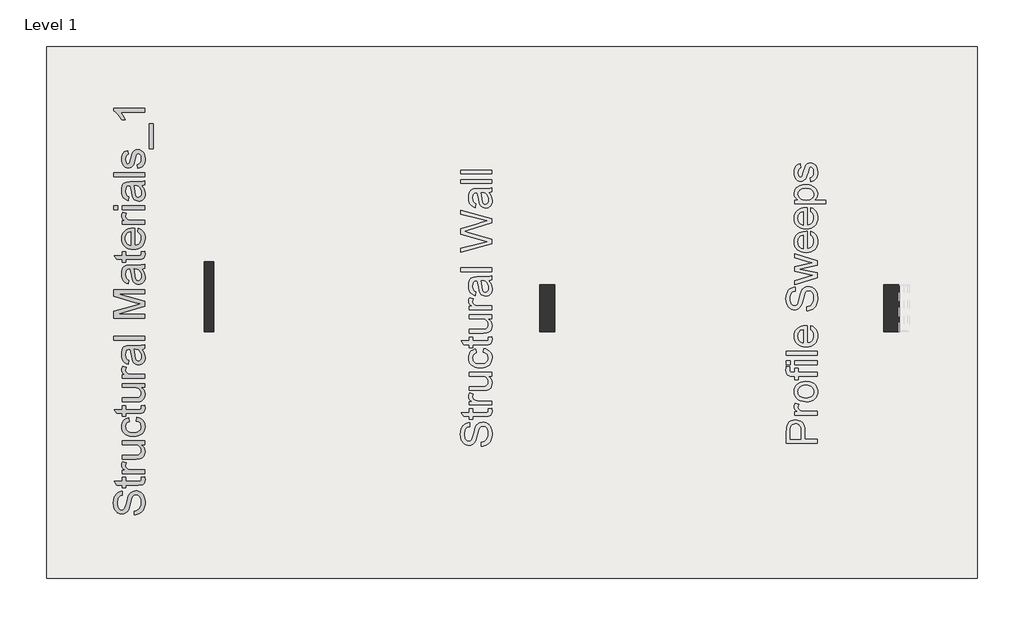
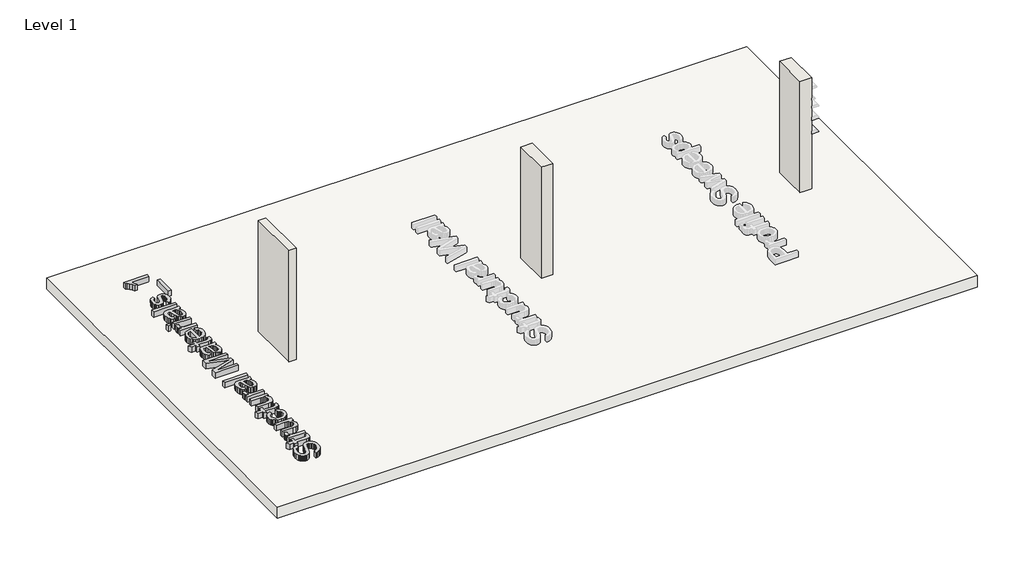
# One storey, part 1 of 2: 3 walls, 1 proxy, 1 slab.
"""IFC4 building model written with IfcOpenShell, lengths in millimetres."""

from ifc_helpers import new_model, si_unit, frame, origin, origin_with_axes, place, context, project, spatial, polyline, outline, extrude, element, save

model = new_model("IFC4")

# Units and contexts
model_context = context("Model", 3, world=origin())
ifc_project = project(units=[si_unit("LENGTHUNIT", "METRE", prefix="MILLI")], contexts=[model_context])

# Site, building, storey
site = spatial("IfcSite", under=ifc_project)
building = spatial("IfcBuilding", under=site)
storey = spatial("IfcBuildingStorey", under=building, Name="Level 1", Elevation=0.0)

# Proxy
placement = place(None, origin())
element("IfcBuildingElementProxy", 1, Name="24\" Arial", ObjectType="24\" Arial", at=placement, inside=storey, context=model_context, shape_type="SweptSolid", body=[
    extrude(outline(polyline([(-24556.9558025, 8091.2376871), (-24556.9558025, 8166.2653794), (-24515.3205621, 8174.874514), (-24481.854841, 8190.4442256), (-24455.2947448, 8214.7329756), (-24434.3763794, 8249.4992256), (-24420.8032544, 8291.9953794), (-24416.2788794, 8339.473841), (-24419.704216, 8381.2739371), (-24429.9802256, 8417.8719179), (-24446.2459948, 8447.527639), (-24467.6406102, 8468.5009564), (-24492.2041198, 8480.9750429), (-24517.9765718, 8485.1330717), (-24543.0896006, 8482.0191294), (-24564.7956102, 8472.6773025), (-24583.3144083, 8453.7005717), (-24598.8658025, 8421.6819179), (-24627.5140718, 8312.4374948), (-24646.4724852, 8240.7252352), (-24664.5150333, 8194.8403794), (-24689.7562833, 8157.491389), (-24720.3461871, 8131.0228794), (-24755.6253218, 8115.2516775), (-24794.9342641, 8109.9946102), (-24817.2768001, 8111.6202713), (-24838.8774852, 8116.4972544), (-24859.7363194, 8124.6255597), (-24879.8533025, 8136.0051871), (-24898.4087352, 8150.5079155), (-24914.5829179, 8168.0055237), (-24928.3758506, 8188.4980116), (-24939.7875333, 8211.9853794), (-24955.1191198, 8264.7758602), (-24960.2296487, 8323.2080717), (-24954.8809948, 8386.5126871), (-24938.8350333, 8441.9042256), (-24926.88299, 8466.1380237), (-24912.4214756, 8487.4044179), (-24895.45049, 8505.7034083), (-24875.9700333, 8521.0349948), (-24854.5479419, 8533.280115), (-24831.7520525, 8542.3197064), (-24807.582365, 8548.1537689), (-24782.0388794, 8550.7823025), (-24782.0388794, 8475.7546102), (-24805.9796006, 8470.7356679), (-24826.8063794, 8461.9799948), (-24844.519216, 8449.487591), (-24859.1181102, 8433.2584564), (-24870.5297929, 8412.9903554), (-24878.6809948, 8388.3810525), (-24883.571716, 8359.4305477), (-24885.2019564, 8326.138841), (-24883.5900333, 8291.7847304), (-24878.7542641, 8262.4312448), (-24870.6946487, 8238.0783842), (-24859.4111871, 8218.7261487), (-24845.8472208, 8203.980716), (-24830.946091, 8193.448264), (-24814.7077977, 8187.1287929), (-24797.132341, 8185.0223025), (-24782.0114035, 8186.5151631), (-24768.3008987, 8190.9937448), (-24756.0008266, 8198.4580477), (-24745.1111871, 8208.9080717), (-24734.7985429, 8225.357014), (-24724.3759948, 8251.2576871), (-24703.2011871, 8331.4142256), (-24683.0887833, 8414.1351871), (-24665.5408025, 8464.1780717), (-24638.3212833, 8506.9489852), (-24622.321115, 8523.4849347), (-24604.727341, 8536.7878794), (-24585.6315477, 8547.0135165), (-24565.1253218, 8554.3175429), (-24519.8815718, 8560.160764), (-24496.4125213, 8558.4801511), (-24473.6303698, 8553.4383121), (-24451.5351174, 8545.0352472), (-24430.1267641, 8533.2709564), (-24410.2341679, 8518.3515092), (-24392.6861871, 8500.4829756), (-24377.4828218, 8479.6653554), (-24364.6240718, 8455.8986487), (-24354.3984347, 8429.8743338), (-24347.0944083, 8402.283889), (-24341.2511871, 8342.4046102), (-24342.8264756, 8304.0252713), (-24347.552341, 8268.8972544), (-24355.4287833, 8237.0205597), (-24366.4558025, 8208.3951871), (-24380.651716, 8182.8471222), (-24398.034841, 8160.2023506), (-24418.6051775, 8140.4608722), (-24442.3627256, 8123.6226871), (-24468.5381583, 8110.0587208), (-24496.3621487, 8100.1398987), (-24525.8346968, 8093.8662208), (-24556.9558025, 8091.2376871)])), origin_with_axes(), (0.0, 0.0, 1.0), 152.4),
    extrude(outline(polyline([(-24413.2015718, 8822.7576871), (-24348.4315718, 8832.1361487), (-24341.2511871, 8776.0119179), (-24344.3651294, 8740.000091), (-24353.7069564, 8713.1469179), (-24368.1043602, 8694.1701871), (-24386.3850333, 8681.7876871), (-24417.7808987, 8674.9736487), (-24471.5238794, 8672.7023025), (-24716.3896487, 8672.7023025), (-24716.3896487, 8616.4315333), (-24791.417341, 8616.4315333), (-24791.417341, 8672.7023025), (-24898.5369564, 8672.7023025), (-24942.6450333, 8747.7299948), (-24791.417341, 8747.7299948), (-24791.417341, 8822.7576871), (-24716.3896487, 8822.7576871), (-24716.3896487, 8747.7299948), (-24473.7219564, 8747.7299948), (-24435.0358025, 8751.6865333), (-24421.3344564, 8764.5086487), (-24417.5427737, 8775.3341775), (-24416.2788794, 8790.0796102), (-24413.2015718, 8822.7576871)])), origin_with_axes(), (0.0, 0.0, 1.0), 152.4),
    extrude(outline(polyline([(-24350.6296487, 8897.7853794), (-24791.417341, 8897.7853794), (-24791.417341, 8963.4346102), (-24726.2077256, 8963.4346102), (-24764.0146487, 8987.6867256), (-24786.2884948, 9010.033841), (-24797.1689756, 9032.4542256), (-24800.7958025, 9056.9261487), (-24795.0075333, 9094.2934564), (-24777.6427256, 9132.2469179), (-24710.3815718, 9107.188841), (-24721.9214756, 9080.8119179), (-24725.7681102, 9054.4349948), (-24722.0680141, 9032.0329275), (-24710.9677256, 9012.0121102), (-24693.309841, 8995.8379275), (-24669.9369564, 8984.975764), (-24628.0269564, 8975.8537448), (-24582.3069564, 8972.8130717), (-24350.6296487, 8972.8130717), (-24350.6296487, 8897.7853794)])), origin_with_axes(), (0.0, 0.0, 1.0), 152.4),
    extrude(outline(polyline([(-24350.6296487, 9460.4930717), (-24426.3900333, 9460.4930717), (-24389.1417881, 9433.3468217), (-24362.5358987, 9401.7311487), (-24346.572365, 9365.6460525), (-24341.2511871, 9325.0915333), (-24344.9879179, 9288.5485044), (-24356.1981102, 9254.533264), (-24373.0500333, 9225.9948987), (-24393.7119564, 9205.8824948), (-24418.8066679, 9192.3460044), (-24448.9569564, 9183.5353794), (-24518.7092641, 9179.1392256), (-24791.417341, 9179.1392256), (-24791.417341, 9254.1669179), (-24554.0250333, 9254.1669179), (-24506.5465718, 9255.302591), (-24477.5319564, 9258.7096102), (-24452.0159468, 9269.6450429), (-24432.6179179, 9288.3836487), (-24420.3636391, 9313.6798506), (-24416.2788794, 9344.2880717), (-24420.4552256, 9376.6547544), (-24432.9842641, 9406.933264), (-24452.7120044, 9431.8997544), (-24478.4844564, 9448.3303794), (-24513.7819083, 9457.4523987), (-24562.0846487, 9460.4930717), (-24791.417341, 9460.4930717), (-24791.417341, 9535.520764), (-24350.6296487, 9535.520764), (-24350.6296487, 9460.4930717)])), origin_with_axes(), (0.0, 0.0, 1.0), 152.4),
    extrude(outline(polyline([(-24510.0634948, 9920.0376871), (-24500.6850333, 9995.0653794), (-24465.2822569, 9986.9050189), (-24433.9550814, 9974.147014), (-24406.7035069, 9956.791365), (-24383.5275333, 9934.8380717), (-24365.0316319, 9909.2121583), (-24351.8202737, 9880.8386487), (-24343.8934588, 9849.7175429), (-24341.2511871, 9815.848841), (-24344.9375453, 9773.7694059), (-24355.9966198, 9736.0403314), (-24374.4284107, 9702.6616174), (-24400.2329179, 9673.633264), (-24432.9247328, 9650.1367376), (-24472.0184468, 9633.3535044), (-24517.5140597, 9623.2835645), (-24569.4115718, 9619.9269179), (-24636.1781583, 9625.6602352), (-24666.2231222, 9632.8268818), (-24694.0425333, 9642.8601871), (-24719.0777136, 9655.828841), (-24740.7699852, 9671.8015333), (-24759.1193482, 9690.778264), (-24774.1258025, 9712.7590333), (-24785.7939275, 9736.750127), (-24794.1283025, 9761.7578314), (-24799.1289275, 9787.7821463), (-24800.7958025, 9814.8230717), (-24798.5061391, 9848.1101991), (-24791.6371487, 9878.2192737), (-24780.1888314, 9905.1502953), (-24764.1611871, 9928.903264), (-24743.9205621, 9949.0751991), (-24719.8333025, 9965.2631198), (-24691.8994083, 9977.4670261), (-24660.1188794, 9985.6869179), (-24650.7404179, 9910.6592256), (-24683.4734468, 9897.049466), (-24706.9379179, 9875.856341), (-24721.0605621, 9848.2521583), (-24725.7681102, 9815.4092256), (-24723.4509708, 9789.9161126), (-24716.4995525, 9766.9233121), (-24704.9138554, 9746.4308241), (-24688.6938794, 9728.4386487), (-24667.4641198, 9713.7893818), (-24640.8490718, 9703.3256198), (-24608.8487352, 9697.0473626), (-24571.4631102, 9694.9546102), (-24533.514228, 9697.0015693), (-24501.142966, 9703.1424467), (-24474.3493242, 9713.3772424), (-24453.1333025, 9727.7059564), (-24437.0094924, 9745.3409443), (-24425.4924852, 9765.4945621), (-24418.5822809, 9788.1668097), (-24416.2788794, 9813.3576871), (-24422.0305141, 9852.2086967), (-24429.2200573, 9869.0102472), (-24439.2854179, 9884.0624948), (-24452.3364996, 9896.9441415), (-24468.4832064, 9907.233889), (-24487.7255381, 9914.9317376), (-24510.0634948, 9920.0376871)])), origin_with_axes(), (0.0, 0.0, 1.0), 152.4),
    extrude(outline(polyline([(-24413.2015718, 10220.1484564), (-24348.4315718, 10229.5269179), (-24341.2511871, 10173.4026871), (-24344.3651294, 10137.3908602), (-24353.7069564, 10110.5376871), (-24368.1043602, 10091.5609564), (-24386.3850333, 10079.1784564), (-24417.7808987, 10072.3644179), (-24471.5238794, 10070.0930717), (-24716.3896487, 10070.0930717), (-24716.3896487, 10013.8223025), (-24791.417341, 10013.8223025), (-24791.417341, 10070.0930717), (-24898.5369564, 10070.0930717), (-24942.6450333, 10145.120764), (-24791.417341, 10145.120764), (-24791.417341, 10220.1484564), (-24716.3896487, 10220.1484564), (-24716.3896487, 10145.120764), (-24473.7219564, 10145.120764), (-24435.0358025, 10149.0773025), (-24421.3344564, 10161.8994179), (-24417.5427737, 10172.7249467), (-24416.2788794, 10187.4703794), (-24413.2015718, 10220.1484564)])), origin_with_axes(), (0.0, 0.0, 1.0), 152.4),
    extrude(outline(polyline([(-24350.6296487, 10576.5299948), (-24426.3900333, 10576.5299948), (-24389.1417881, 10549.3837448), (-24362.5358987, 10517.7680717), (-24346.572365, 10481.6829756), (-24341.2511871, 10441.1284564), (-24344.9879179, 10404.5854275), (-24356.1981102, 10370.5701871), (-24373.0500333, 10342.0318217), (-24393.7119564, 10321.9194179), (-24418.8066679, 10308.3829275), (-24448.9569564, 10299.5723025), (-24518.7092641, 10295.1761487), (-24791.417341, 10295.1761487), (-24791.417341, 10370.203841), (-24554.0250333, 10370.203841), (-24506.5465718, 10371.339514), (-24477.5319564, 10374.7465333), (-24452.0159468, 10385.681966), (-24432.6179179, 10404.4205717), (-24420.3636391, 10429.7167737), (-24416.2788794, 10460.3249948), (-24420.4552256, 10492.6916775), (-24432.9842641, 10522.9701871), (-24452.7120044, 10547.9366775), (-24478.4844564, 10564.3673025), (-24513.7819083, 10573.4893217), (-24562.0846487, 10576.5299948), (-24791.417341, 10576.5299948), (-24791.417341, 10651.5576871), (-24350.6296487, 10651.5576871), (-24350.6296487, 10576.5299948)])), origin_with_axes(), (0.0, 0.0, 1.0), 152.4),
    extrude(outline(polyline([(-24350.6296487, 10754.720764), (-24791.417341, 10754.720764), (-24791.417341, 10820.3699948), (-24726.2077256, 10820.3699948), (-24764.0146487, 10844.6221102), (-24786.2884948, 10866.9692256), (-24797.1689756, 10889.3896102), (-24800.7958025, 10913.8615333), (-24795.0075333, 10951.228841), (-24777.6427256, 10989.1823025), (-24710.3815718, 10964.1242256), (-24721.9214756, 10937.7473025), (-24725.7681102, 10911.3703794), (-24722.0680141, 10888.9683121), (-24710.9677256, 10868.9474948), (-24693.309841, 10852.7733121), (-24669.9369564, 10841.9111487), (-24628.0269564, 10832.7891294), (-24582.3069564, 10829.7484564), (-24350.6296487, 10829.7484564), (-24350.6296487, 10754.720764)])), origin_with_axes(), (0.0, 0.0, 1.0), 152.4),
    extrude(outline(polyline([(-24406.9004179, 11317.4284564), (-24376.1639756, 11281.5814852), (-24356.0515718, 11244.6721102), (-24344.9512833, 11205.8577352), (-24341.2511871, 11164.295764), (-24343.47674, 11130.8895741), (-24350.1533987, 11101.5956198), (-24361.2811631, 11076.4139011), (-24376.8600333, 11055.3444179), (-24395.9008746, 11038.7077232), (-24417.4145525, 11026.8243698), (-24441.4010669, 11019.6943578), (-24467.8604179, 11017.3176871), (-24498.9632064, 11020.9078794), (-24527.2084948, 11031.6784564), (-24551.387341, 11048.2922544), (-24570.2908025, 11069.4121102), (-24584.5783025, 11094.2320621), (-24594.9092641, 11121.9461487), (-24606.1927256, 11186.8626871), (-24618.062341, 11263.5755717), (-24631.9834948, 11316.988841), (-24648.6888794, 11317.4284564), (-24682.1729179, 11312.2629756), (-24694.5737352, 11305.8061246), (-24704.0804179, 11296.7665333), (-24713.5687833, 11281.1418698), (-24720.3461871, 11262.1101871), (-24725.7681102, 11213.825764), (-24722.1596006, 11169.1315333), (-24711.3340718, 11137.918841), (-24691.3132544, 11116.6341294), (-24660.1188794, 11101.723841), (-24669.497341, 11026.6961487), (-24710.5281102, 11039.7197544), (-24742.7665718, 11059.1544179), (-24767.4216679, 11086.8135525), (-24785.702341, 11124.5105717), (-24797.0224371, 11170.6152352), (-24800.7958025, 11223.4973025), (-24797.4620525, 11274.2179275), (-24787.4608025, 11314.4244179), (-24772.4222929, 11344.7395621), (-24753.9767641, 11365.7861487), (-24731.171716, 11379.7439371), (-24703.0546487, 11388.7926871), (-24637.4054179, 11392.4561487), (-24544.0604179, 11392.4561487), (-24413.7144564, 11396.2661487), (-24381.4943121, 11401.9078794), (-24350.6296487, 11411.2130717), (-24350.6296487, 11336.1853794), (-24376.7134948, 11324.1692256), (-24406.9004179, 11317.4284564)]), holes=[polyline([(-24556.9558025, 11317.4284564), (-24544.4633987, 11267.0192256), (-24533.9492641, 11196.3876871), (-24521.7865718, 11131.8374948), (-24513.4705141, 11115.0405237), (-24502.0038794, 11102.6030717), (-24488.2658987, 11094.9098025), (-24473.1358025, 11092.3453794), (-24450.8253218, 11097.9321583), (-24432.5446487, 11114.6924948), (-24420.3453218, 11142.2600429), (-24416.2788794, 11180.2684564), (-24420.7666198, 11220.5665333), (-24434.229841, 11256.1753794), (-24454.0674852, 11285.0434564), (-24477.6784948, 11305.1192256), (-24502.0038794, 11314.0214371), (-24535.7077256, 11316.988841), (-24556.9558025, 11317.4284564)])]), origin_with_axes(), (0.0, 0.0, 1.0), 152.4),
    extrude(outline(polyline([(-24350.6296487, 11495.6192256), (-24950.8511871, 11495.6192256), (-24950.8511871, 11570.6469179), (-24350.6296487, 11570.6469179), (-24350.6296487, 11495.6192256)])), origin_with_axes(), (0.0, 0.0, 1.0), 152.4),
    extrude(outline(polyline([(-24350.6296487, 11927.0284564), (-24950.8511871, 11927.0284564), (-24950.8511871, 12056.128841), (-24527.7946487, 12178.9280717), (-24439.4319564, 12203.6930717), (-24535.1215718, 12230.5096102), (-24950.8511871, 12351.2573025), (-24950.8511871, 12480.3576871), (-24350.6296487, 12480.3576871), (-24350.6296487, 12405.3299948), (-24875.8234948, 12405.3299948), (-24350.6296487, 12254.5419179), (-24350.6296487, 12152.8442256), (-24875.8234948, 12002.0561487), (-24350.6296487, 12002.0561487), (-24350.6296487, 11927.0284564)])), origin_with_axes(), (0.0, 0.0, 1.0), 152.4),
    extrude(outline(polyline([(-24406.9004179, 12883.6315333), (-24376.1639756, 12847.7845621), (-24356.0515718, 12810.8751871), (-24344.9512833, 12772.0608121), (-24341.2511871, 12730.498841), (-24343.47674, 12697.0926511), (-24350.1533987, 12667.7986967), (-24361.2811631, 12642.616978), (-24376.8600333, 12621.5474948), (-24395.9008746, 12604.9108001), (-24417.4145525, 12593.0274467), (-24441.4010669, 12585.8974347), (-24467.8604179, 12583.520764), (-24498.9632064, 12587.1109564), (-24527.2084948, 12597.8815333), (-24551.387341, 12614.4953314), (-24570.2908025, 12635.6151871), (-24584.5783025, 12660.435139), (-24594.9092641, 12688.1492256), (-24606.1927256, 12753.065764), (-24618.062341, 12829.7786487), (-24631.9834948, 12883.1919179), (-24648.6888794, 12883.6315333), (-24682.1729179, 12878.4660525), (-24694.5737352, 12872.0092015), (-24704.0804179, 12862.9696102), (-24713.5687833, 12847.3449467), (-24720.3461871, 12828.313264), (-24725.7681102, 12780.028841), (-24722.1596006, 12735.3346102), (-24711.3340718, 12704.1219179), (-24691.3132544, 12682.8372064), (-24660.1188794, 12667.9269179), (-24669.497341, 12592.8992256), (-24710.5281102, 12605.9228314), (-24742.7665718, 12625.3574948), (-24767.4216679, 12653.0166294), (-24785.702341, 12690.7136487), (-24797.0224371, 12736.8183121), (-24800.7958025, 12789.7003794), (-24797.4620525, 12840.4210044), (-24787.4608025, 12880.6274948), (-24772.4222929, 12910.942639), (-24753.9767641, 12931.9892256), (-24731.171716, 12945.947014), (-24703.0546487, 12954.995764), (-24637.4054179, 12958.6592256), (-24544.0604179, 12958.6592256), (-24413.7144564, 12962.4692256), (-24381.4943121, 12968.1109564), (-24350.6296487, 12977.4161487), (-24350.6296487, 12902.3884564), (-24376.7134948, 12890.3723025), (-24406.9004179, 12883.6315333)]), holes=[polyline([(-24556.9558025, 12883.6315333), (-24544.4633987, 12833.2223025), (-24533.9492641, 12762.590764), (-24521.7865718, 12698.0405717), (-24513.4705141, 12681.2436006), (-24502.0038794, 12668.8061487), (-24488.2658987, 12661.1128794), (-24473.1358025, 12658.5484564), (-24450.8253218, 12664.1352352), (-24432.5446487, 12680.8955717), (-24420.3453218, 12708.4631198), (-24416.2788794, 12746.4715333), (-24420.7666198, 12786.7696102), (-24434.229841, 12822.3784564), (-24454.0674852, 12851.2465333), (-24477.6784948, 12871.3223025), (-24502.0038794, 12880.224514), (-24535.7077256, 12883.1919179), (-24556.9558025, 12883.6315333)])]), origin_with_axes(), (0.0, 0.0, 1.0), 152.4),
    extrude(outline(polyline([(-24413.2015718, 13221.2561487), (-24348.4315718, 13230.6346102), (-24341.2511871, 13174.5103794), (-24344.3651294, 13138.4985525), (-24353.7069564, 13111.6453794), (-24368.1043602, 13092.6686487), (-24386.3850333, 13080.2861487), (-24417.7808987, 13073.4721102), (-24471.5238794, 13071.200764), (-24716.3896487, 13071.200764), (-24716.3896487, 13014.9299948), (-24791.417341, 13014.9299948), (-24791.417341, 13071.200764), (-24898.5369564, 13071.200764), (-24942.6450333, 13146.2284564), (-24791.417341, 13146.2284564), (-24791.417341, 13221.2561487), (-24716.3896487, 13221.2561487), (-24716.3896487, 13146.2284564), (-24473.7219564, 13146.2284564), (-24435.0358025, 13150.1849948), (-24421.3344564, 13163.0071102), (-24417.5427737, 13173.832639), (-24416.2788794, 13188.5780717), (-24413.2015718, 13221.2561487)])), origin_with_axes(), (0.0, 0.0, 1.0), 152.4),
    extrude(outline(polyline([(-24481.9281102, 13604.893841), (-24472.5496487, 13678.4561487), (-24443.0862593, 13667.1772665), (-24417.1214756, 13651.9510044), (-24394.6552977, 13632.7773626), (-24375.6877256, 13609.656341), (-24360.62174, 13582.8260645), (-24349.8603218, 13552.5246583), (-24343.4034708, 13518.7521222), (-24341.2511871, 13481.5084564), (-24344.9650213, 13434.9550189), (-24356.1065237, 13393.4754756), (-24374.6756944, 13357.0698265), (-24400.6725333, 13325.7380717), (-24433.3735069, 13300.542615), (-24472.0550814, 13282.5458602), (-24516.7172569, 13271.7478073), (-24567.3600333, 13268.1484564), (-24619.7200573, 13271.7844419), (-24665.8705141, 13282.6923987), (-24705.8114035, 13300.8723265), (-24739.5427256, 13326.3242256), (-24766.3409468, 13357.5735525), (-24785.4825333, 13393.145764), (-24796.9674852, 13433.0408602), (-24800.7958025, 13477.258841), (-24796.9766439, 13520.0526511), (-24785.5191679, 13558.7525429), (-24766.4233746, 13593.3585165), (-24739.6892641, 13623.8705717), (-24706.0312112, 13648.7775309), (-24666.163591, 13666.568216), (-24620.0864035, 13677.242627), (-24567.7996487, 13680.800764), (-24547.577341, 13680.3611487), (-24547.577341, 13343.1761487), (-24517.6377016, 13347.5219299), (-24491.4164756, 13356.1631198), (-24468.9136631, 13369.0997184), (-24450.1292641, 13386.3317256), (-24435.3197208, 13406.9066415), (-24424.7414756, 13429.871966), (-24418.3945285, 13455.2276991), (-24416.2788794, 13482.973841), (-24420.1987833, 13522.9055717), (-24431.9584948, 13556.5361487), (-24452.2907064, 13583.8655717), (-24481.9281102, 13604.893841)]), holes=[polyline([(-24622.6050333, 13343.1761487), (-24622.6050333, 13605.7730717), (-24662.2436871, 13595.6252833), (-24677.831716, 13586.8970862), (-24690.5988794, 13575.7326871), (-24705.9854179, 13555.2722544), (-24716.9758025, 13531.9909564), (-24723.5700333, 13505.8887929), (-24725.7681102, 13476.965764), (-24724.014228, 13450.5842616), (-24718.7525814, 13426.3916775), (-24709.9831703, 13404.3880116), (-24697.7059948, 13384.573264), (-24682.4888915, 13367.945728), (-24664.8996968, 13355.5036967), (-24644.9384107, 13347.2471703), (-24622.6050333, 13343.1761487)])]), origin_with_axes(), (0.0, 0.0, 1.0), 152.4),
    extrude(outline(polyline([(-24350.6296487, 13755.8284564), (-24791.417341, 13755.8284564), (-24791.417341, 13821.4776871), (-24726.2077256, 13821.4776871), (-24764.0146487, 13845.7298025), (-24786.2884948, 13868.0769179), (-24797.1689756, 13890.4973025), (-24800.7958025, 13914.9692256), (-24795.0075333, 13952.3365333), (-24777.6427256, 13990.2899948), (-24710.3815718, 13965.2319179), (-24721.9214756, 13938.8549948), (-24725.7681102, 13912.4780717), (-24722.0680141, 13890.0760044), (-24710.9677256, 13870.0551871), (-24693.309841, 13853.8810044), (-24669.9369564, 13843.018841), (-24628.0269564, 13833.8968217), (-24582.3069564, 13830.8561487), (-24350.6296487, 13830.8561487), (-24350.6296487, 13755.8284564)])), origin_with_axes(), (0.0, 0.0, 1.0), 152.4),
    extrude(outline(polyline([(-24350.6296487, 14037.1823025), (-24791.417341, 14037.1823025), (-24791.417341, 14112.2099948), (-24350.6296487, 14112.2099948), (-24350.6296487, 14037.1823025)])), origin_with_axes(), (0.0, 0.0, 1.0), 152.4),
    extrude(outline(polyline([(-24875.8234948, 14037.1823025), (-24950.8511871, 14037.1823025), (-24950.8511871, 14112.2099948), (-24875.8234948, 14112.2099948), (-24875.8234948, 14037.1823025)])), origin_with_axes(), (0.0, 0.0, 1.0), 152.4),
    extrude(outline(polyline([(-24406.9004179, 14506.1053794), (-24376.1639756, 14470.2584083), (-24356.0515718, 14433.3490333), (-24344.9512833, 14394.5346583), (-24341.2511871, 14352.9726871), (-24343.47674, 14319.5664972), (-24350.1533987, 14290.2725429), (-24361.2811631, 14265.0908241), (-24376.8600333, 14244.021341), (-24395.9008746, 14227.3846463), (-24417.4145525, 14215.5012929), (-24441.4010669, 14208.3712809), (-24467.8604179, 14205.9946102), (-24498.9632064, 14209.5848025), (-24527.2084948, 14220.3553794), (-24551.387341, 14236.9691775), (-24570.2908025, 14258.0890333), (-24584.5783025, 14282.9089852), (-24594.9092641, 14310.6230717), (-24606.1927256, 14375.5396102), (-24618.062341, 14452.2524948), (-24631.9834948, 14505.665764), (-24648.6888794, 14506.1053794), (-24682.1729179, 14500.9398987), (-24694.5737352, 14494.4830477), (-24704.0804179, 14485.4434564), (-24713.5687833, 14469.8187929), (-24720.3461871, 14450.7871102), (-24725.7681102, 14402.5026871), (-24722.1596006, 14357.8084564), (-24711.3340718, 14326.595764), (-24691.3132544, 14305.3110525), (-24660.1188794, 14290.400764), (-24669.497341, 14215.3730717), (-24710.5281102, 14228.3966775), (-24742.7665718, 14247.831341), (-24767.4216679, 14275.4904756), (-24785.702341, 14313.1874948), (-24797.0224371, 14359.2921583), (-24800.7958025, 14412.1742256), (-24797.4620525, 14462.8948506), (-24787.4608025, 14503.101341), (-24772.4222929, 14533.4164852), (-24753.9767641, 14554.4630717), (-24731.171716, 14568.4208602), (-24703.0546487, 14577.4696102), (-24637.4054179, 14581.1330717), (-24544.0604179, 14581.1330717), (-24413.7144564, 14584.9430717), (-24381.4943121, 14590.5848025), (-24350.6296487, 14599.8899948), (-24350.6296487, 14524.8623025), (-24376.7134948, 14512.8461487), (-24406.9004179, 14506.1053794)]), holes=[polyline([(-24556.9558025, 14506.1053794), (-24544.4633987, 14455.6961487), (-24533.9492641, 14385.0646102), (-24521.7865718, 14320.5144179), (-24513.4705141, 14303.7174467), (-24502.0038794, 14291.2799948), (-24488.2658987, 14283.5867256), (-24473.1358025, 14281.0223025), (-24450.8253218, 14286.6090814), (-24432.5446487, 14303.3694179), (-24420.3453218, 14330.936966), (-24416.2788794, 14368.9453794), (-24420.7666198, 14409.2434564), (-24434.229841, 14444.8523025), (-24454.0674852, 14473.7203794), (-24477.6784948, 14493.7961487), (-24502.0038794, 14502.6983602), (-24535.7077256, 14505.665764), (-24556.9558025, 14506.1053794)])]), origin_with_axes(), (0.0, 0.0, 1.0), 152.4),
    extrude(outline(polyline([(-24350.6296487, 14684.2961487), (-24950.8511871, 14684.2961487), (-24950.8511871, 14759.323841), (-24350.6296487, 14759.323841), (-24350.6296487, 14684.2961487)])), origin_with_axes(), (0.0, 0.0, 1.0), 152.4),
    extrude(outline(polyline([(-24481.9281102, 14843.7299948), (-24491.3065718, 14918.7576871), (-24474.1982064, 14923.2912208), (-24459.2146487, 14930.5906679), (-24446.3558987, 14940.6560285), (-24435.6219564, 14953.4873025), (-24427.1593602, 14969.1211246), (-24421.1146487, 14987.5941294), (-24416.2788794, 15033.0576871), (-24420.7116679, 15077.9717256), (-24426.2526535, 15095.4281198), (-24434.0100333, 15109.550764), (-24453.279841, 15128.2344179), (-24464.0687352, 15132.9053314), (-24475.6269564, 15134.4623025), (-24485.7564275, 15132.8961727), (-24494.7502256, 15128.1977833), (-24509.3308025, 15109.4042256), (-24518.8558025, 15081.3054756), (-24530.7254179, 15032.1784564), (-24550.5264275, 14963.7083602), (-24567.4333025, 14919.1973025), (-24585.8788314, 14890.6039852), (-24610.2958025, 14869.8871102), (-24639.1272448, 14857.3031198), (-24670.8161871, 14853.1084564), (-24699.8857544, 14856.478841), (-24726.7206102, 14866.5899948), (-24750.2583506, 14882.5260525), (-24769.4365718, 14903.3711487), (-24781.5076775, 14924.0880237), (-24791.6371487, 14951.0694179), (-24798.5061391, 14982.2637929), (-24800.7958025, 15015.6196102), (-24797.1140237, 15064.4535525), (-24786.0686871, 15106.9130717), (-24768.7405141, 15141.0565333), (-24746.2102256, 15164.9423025), (-24716.8109468, 15180.7684564), (-24678.8758025, 15190.7330717), (-24669.497341, 15115.7053794), (-24693.1083506, 15106.2353314), (-24710.8944564, 15087.4967256), (-24722.0496968, 15059.306389), (-24725.7681102, 15021.4811487), (-24722.2145525, 14978.398841), (-24711.5538794, 14949.6773025), (-24696.167341, 14933.5214371), (-24678.4361871, 14928.1361487), (-24666.8962833, 14930.3708602), (-24656.6019564, 14937.0749948), (-24647.4066679, 14948.5416294), (-24640.0431102, 14965.063841), (-24624.0704179, 15029.6873025), (-24588.7546487, 15139.8109564), (-24571.866091, 15168.898841), (-24548.7496487, 15190.9528794), (-24519.3320525, 15204.855716), (-24483.5400333, 15209.4899948), (-24446.5390718, 15204.0497544), (-24411.7361871, 15187.7290333), (-24381.8606583, 15161.1506198), (-24359.6417641, 15124.9373025), (-24345.8488314, 15081.1955717), (-24341.2511871, 15032.0319179), (-24343.4675814, 14991.6514131), (-24350.1167641, 14956.3814371), (-24361.1987352, 14926.22199), (-24376.7134948, 14901.1730717), (-24396.5877737, 14880.712639), (-24420.7483025, 14864.3186487), (-24449.1950814, 14851.9911006), (-24481.9281102, 14843.7299948)])), origin_with_axes(), (0.0, 0.0, 1.0), 152.4),
    extrude(outline(polyline([(-24181.817341, 15228.2469179), (-24256.8450333, 15228.2469179), (-24256.8450333, 15715.9269179), (-24181.817341, 15715.9269179), (-24181.817341, 15228.2469179)])), origin_with_axes(), (0.0, 0.0, 1.0), 152.4),
    extrude(outline(polyline([(-24350.6296487, 16016.0376871), (-24350.6296487, 15941.0099948), (-24818.3804179, 15941.0099948), (-24793.0475814, 15909.6873987), (-24767.7513794, 15869.938841), (-24745.6423891, 15828.212014), (-24729.8711871, 15790.9546102), (-24800.7958025, 15790.9546102), (-24832.851091, 15849.881389), (-24870.9877256, 15900.9317256), (-24911.5422448, 15941.1748506), (-24950.8511871, 15967.6799948), (-24950.8511871, 16016.0376871), (-24350.6296487, 16016.0376871)])), origin_with_axes(), (0.0, 0.0, 1.0), 152.4),
])

# Slab
element("IfcSlab", 2, ObjectType="Generic - 12\"", at=placement, inside=storey, context=model_context, shape_type="SweptSolid", body=[
    extrude(outline(polyline([(-8122.4225469, 17218.1814759), (-8122.4225469, 6854.9814759), (-26261.9480786, 6854.9814759), (-26261.9480786, 17218.1814759), (-8122.4225469, 17218.1814759)])), frame((0.0, 0.0, -304.8), z_axis=(0.0, 0.0, 1.0), x_axis=(1.0, 0.0, 0.0)), (0.0, 0.0, 1.0), 304.8),
])

# Walls
element("IfcWall", 3, ObjectType="Exterior-Wall_STRU_Single-Wythe-Brick_Glen-Gery", at=placement, inside=storey, context=model_context, shape_type="SweptSolid", body=[
    extrude(outline(polyline([(-9649.5975469, 12572.1761537), (-9649.5975469, 11657.7761537), (-9948.0475469, 11657.7761537), (-9948.0475469, 12572.1761537), (-9649.5975469, 12572.1761537)])), origin_with_axes(), (0.0, 0.0, 1.0), 3048.0),
])
element("IfcWall", 4, ObjectType="Exterior-Wall_STRU_Single-Wythe-Brick_Glen-Gery", at=placement, inside=storey, context=model_context, shape_type="SweptSolid", body=[
    extrude(outline(polyline([(-16355.1975469, 12572.1761537), (-16355.1975469, 11657.7761537), (-16653.6475469, 11657.7761537), (-16653.6475469, 12572.1761537), (-16355.1975469, 12572.1761537)])), origin_with_axes(), (0.0, 0.0, 1.0), 3048.0),
])
element("IfcWall", 5, ObjectType="Generic - 7 5/8\" 91", at=placement, inside=storey, context=model_context, shape_type="SweptSolid", body=[
    extrude(outline(polyline([(-23192.962596, 11657.7761537), (-23192.962596, 13029.3761537), (-22999.287596, 13029.3761537), (-22999.287596, 11657.7761537), (-23192.962596, 11657.7761537)])), origin_with_axes(), (0.0, 0.0, 1.0), 3048.0),
])

save(model, "model.ifc")
